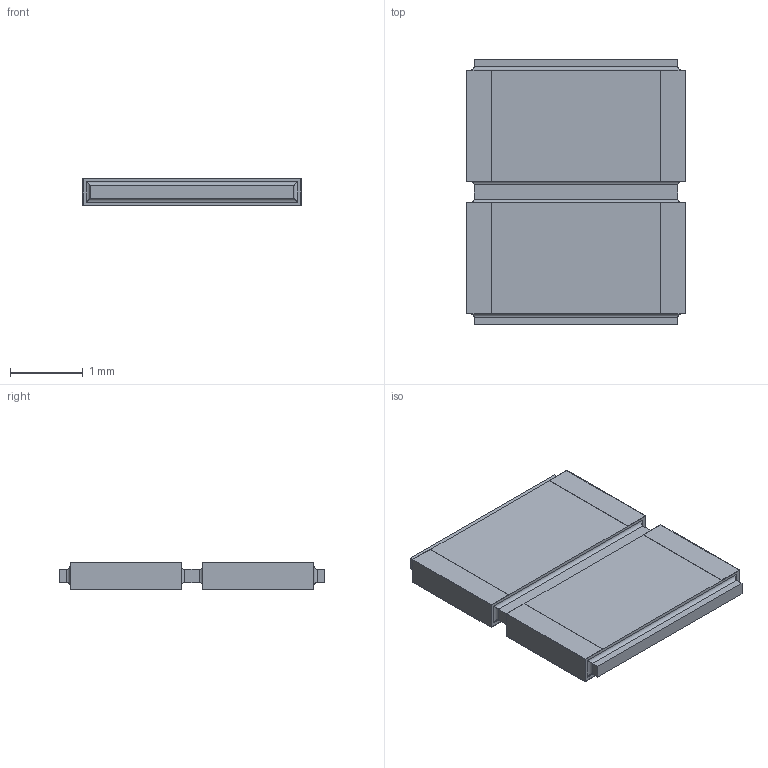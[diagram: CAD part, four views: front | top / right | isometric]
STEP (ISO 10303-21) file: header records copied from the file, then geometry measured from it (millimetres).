
FILE_DESCRIPTION(/* description */ (''),/* implementation_level */ '2;1');
FILE_NAME(/* name */ 'S:\DOCUMENT\AUTOCAD\3D_Modèles\10_3D-pour-VISHAY-COM\PRA\PRAHR182I2_B.stp',/* time_stamp */ '2018-02-02T10:52:09+01:00',/* author */ ('dparmentier'),/* organization */ ('unknown'),/* preprocessor_version */ 'ST-DEVELOPER v17',/* originating_system */ 'Autodesk Inventor 2018',/* authorisation */ '');
FILE_SCHEMA (('AUTOMOTIVE_DESIGN { 1 0 10303 214 3 1 1 }'));
Length unit declared in the file: millimetre
Products named in the file (1): PRAHR182I2_B
Bounding box: 3 x 3.65 x 0.38 mm (x, y, z)
Volume: 3.7 mm3; surface area: 39.9 mm2
Topology: 5 solids, 5 shells, 82 faces, 188 edges, 120 vertices
Faces by surface type: plane 66, cylinder 16
Entity records: 2309 total; most frequent: CARTESIAN_POINT 391, ORIENTED_EDGE 376, DIRECTION 370, EDGE_CURVE 188, LINE 172, VECTOR 172, VERTEX_POINT 120, AXIS2_PLACEMENT_3D 99
